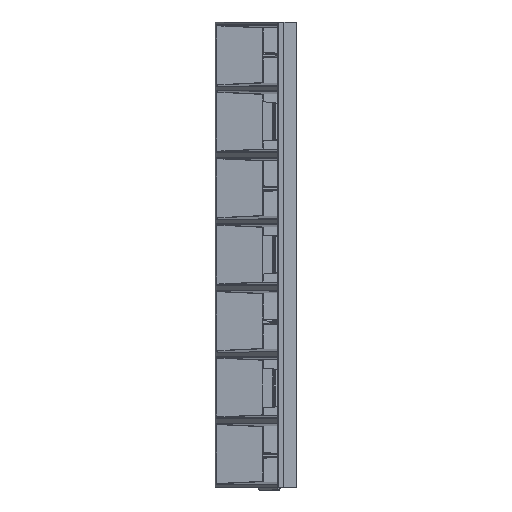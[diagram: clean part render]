
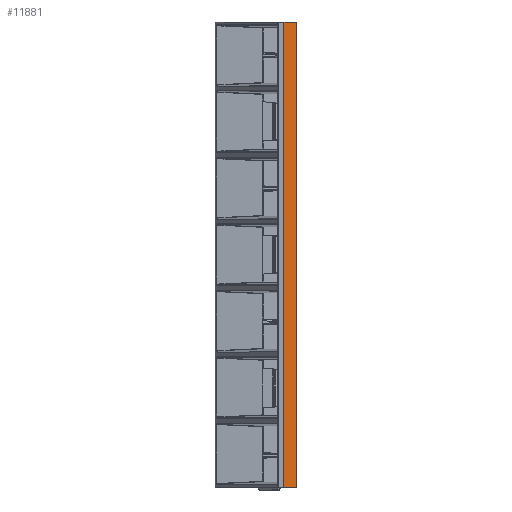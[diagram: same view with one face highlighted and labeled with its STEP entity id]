
A CAD part, left-side view. The second image highlights one B-rep face of the part: STEP entity #11881.
In plain terms, the highlighted planar face has unit normal (-0.999, -0.035, 0).
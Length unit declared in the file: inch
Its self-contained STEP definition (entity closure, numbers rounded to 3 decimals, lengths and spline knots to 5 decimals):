
#307 = CARTESIAN_POINT ( 'NONE',  ( -0.56433, -0.31105, 3. ) ) ;
#740 = CARTESIAN_POINT ( 'NONE',  ( -0.56433, -0.31105, -3. ) ) ;
#1779 = EDGE_CURVE ( 'NONE', #15485, #2469, #14237, .T. ) ;
#2436 = DIRECTION ( 'NONE',  ( 0., 0., 1. ) ) ;
#2469 = VERTEX_POINT ( 'NONE', #11339 ) ;
#3193 = VECTOR ( 'NONE', #2436, 39.37008 ) ;
#5843 = CARTESIAN_POINT ( 'NONE',  ( -0.57, -0.14858, 3. ) ) ;
#5914 = VECTOR ( 'NONE', #9191, 39.37008 ) ;
#6881 = CARTESIAN_POINT ( 'NONE',  ( -0.56416, -0.31588, -3. ) ) ;
#7868 = DIRECTION ( 'NONE',  ( 0.035, -0.999, 0. ) ) ;
#8052 = ORIENTED_EDGE ( 'NONE', *, *, #19820, .F. ) ;
#8216 = VERTEX_POINT ( 'NONE', #5843 ) ;
#9191 = DIRECTION ( 'NONE',  ( 0.035, -0.999, 0. ) ) ;
#9734 = CARTESIAN_POINT ( 'NONE',  ( -0.56416, -0.31588, 3. ) ) ;
#11339 = CARTESIAN_POINT ( 'NONE',  ( -0.56433, -0.31105, 3. ) ) ;
#11494 = LINE ( 'NONE', #6881, #5914 ) ;
#11586 = VERTEX_POINT ( 'NONE', #12925 ) ;
#11881 = ADVANCED_FACE ( 'NONE', ( #17936 ), #25015, .F. ) ;
#12088 = EDGE_CURVE ( 'NONE', #11586, #15485, #11494, .T. ) ;
#12316 = LINE ( 'NONE', #25994, #17212 ) ;
#12925 = CARTESIAN_POINT ( 'NONE',  ( -0.57, -0.14858, -3. ) ) ;
#13846 = ORIENTED_EDGE ( 'NONE', *, *, #12088, .T. ) ;
#14237 = LINE ( 'NONE', #307, #3193 ) ;
#14692 = AXIS2_PLACEMENT_3D ( 'NONE', #15798, #17631, #23008 ) ;
#15485 = VERTEX_POINT ( 'NONE', #740 ) ;
#15798 = CARTESIAN_POINT ( 'NONE',  ( -0.56416, -0.31588, 3. ) ) ;
#17212 = VECTOR ( 'NONE', #19071, 39.37008 ) ;
#17631 = DIRECTION ( 'NONE',  ( 0.999, 0.035, 0. ) ) ;
#17936 = FACE_OUTER_BOUND ( 'NONE', #22075, .T. ) ;
#19071 = DIRECTION ( 'NONE',  ( 0., 0., -1. ) ) ;
#19746 = ORIENTED_EDGE ( 'NONE', *, *, #1779, .T. ) ;
#19820 = EDGE_CURVE ( 'NONE', #8216, #2469, #21398, .T. ) ;
#21398 = LINE ( 'NONE', #9734, #29053 ) ;
#22075 = EDGE_LOOP ( 'NONE', ( #13846, #19746, #8052, #24419 ) ) ;
#23008 = DIRECTION ( 'NONE',  ( -0.035, 0.999, 0. ) ) ;
#24419 = ORIENTED_EDGE ( 'NONE', *, *, #29505, .T. ) ;
#25015 = PLANE ( 'NONE',  #14692 ) ;
#25994 = CARTESIAN_POINT ( 'NONE',  ( -0.57, -0.14858, 3. ) ) ;
#29053 = VECTOR ( 'NONE', #7868, 39.37008 ) ;
#29505 = EDGE_CURVE ( 'NONE', #8216, #11586, #12316, .T. ) ;
